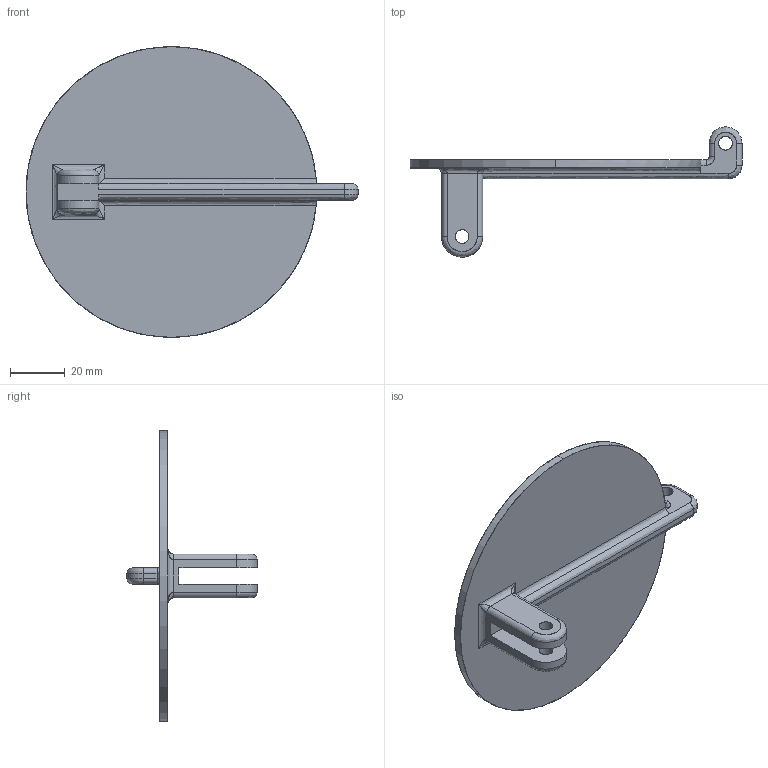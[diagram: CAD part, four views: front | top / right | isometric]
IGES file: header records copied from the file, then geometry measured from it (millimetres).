
Start section: SolidWorks IGES file using analytic representation for surfaces
Global section: file name: C:\Users\sebas\Documents\SOLIDWORKSComposer\TESIS\3. Dosificadora\IGS\Tapa de Vaso volumétrico.IGS; native system: SolidWorks 2022; preprocessor: SolidWorks 2022; author: sebas; date: 220619.065933; units: millimetre
Bounding box: 121 x 47.5 x 106 mm (x, y, z)
Surface area: 21989.3 mm2 (no closed solid volume)
Topology: 0 solids, 0 shells, 59 faces, 832 edges, 828 vertices
Faces by surface type: revolution 33, bspline 26
